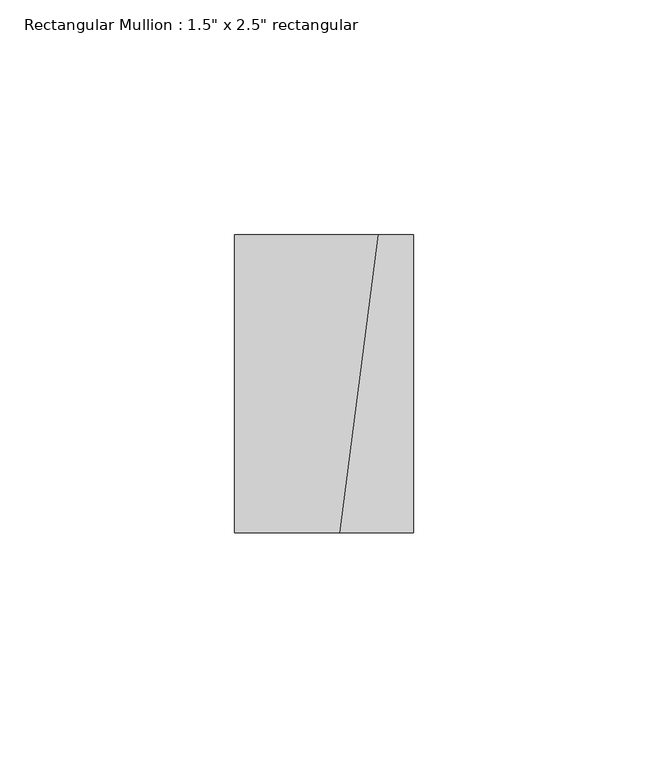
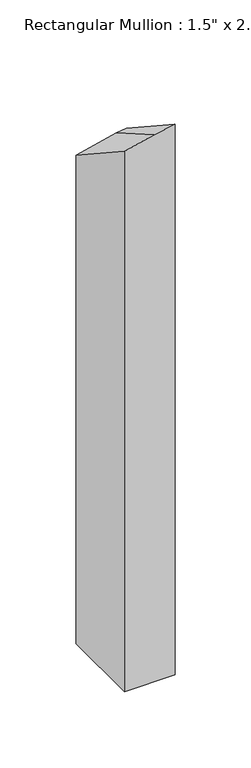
"""IFC4 building model written with IfcOpenShell, lengths in millimetres: member geometry."""

from ifc_helpers import new_model, si_unit, origin, place, context, project, spatial, faceted_brep, source, transform, mapped, element, save


def member_9acdba3d(model_context):
    return source(origin(), model_context, "Body", "Brep", [
        faceted_brep([(19.05, 31.75, -454.6515223), (19.05, -31.75, -454.6515223), (-19.05, -31.75, -454.6515223), (-19.05, 31.75, -454.6515223), (-19.05, 31.75, -64.3276297), (11.6285265, 31.75, -56.9767534), (19.05, 31.75, -55.7220593), (-19.05, -31.75, -22.4006386), (19.05, -31.75, -14.3705944), (3.470492, -31.75, -17.0045075)], [[[0, 1, 2, 3]], [[4, 5, 6, 0, 3]], [[7, 4, 3, 2]], [[8, 9, 7, 2, 1]], [[6, 8, 1, 0]], [[6, 5, 9, 8]], [[5, 4, 7, 9]]]),
    ])


if __name__ == "__main__":
    model = new_model("IFC4")
    model_context = context("Model", 3, world=origin())
    ifc_project = project(units=[si_unit("LENGTHUNIT", "METRE", prefix="MILLI")], contexts=[model_context])
    site = spatial("IfcSite", under=ifc_project)
    building = spatial("IfcBuilding", under=site)
    placement = place(None, origin())
    member_shape = member_9acdba3d(model_context)
    element("IfcMember", 1, ObjectType="Rectangular Mullion : 1.5\" x 2.5\" rectangular", at=placement, inside=building, context=model_context, shape_type="MappedRepresentation", body=[
        mapped(member_shape, transform((0.0, 0.0, 0.0), x_axis=(1.0, 0.0, 0.0), y_axis=(0.0, 1.0, 0.0), z_axis=(0.0, 0.0, 1.0))),
    ])
    save(model, "model.ifc")
